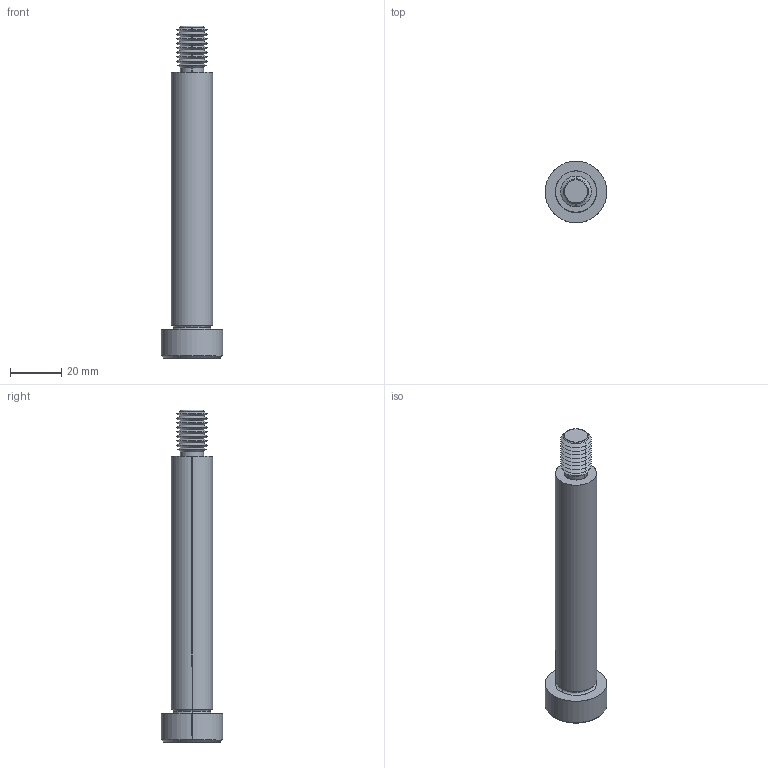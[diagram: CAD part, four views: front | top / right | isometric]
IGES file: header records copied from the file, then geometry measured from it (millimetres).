
Start section: SolidWorks IGES file using analytic representation for surfaces
Global section: file name: C:\Users\IanO\Documents\Temp Folder\GENERAL\SCREW REVISION\P0130_v2\P0130.T5_v2_20220106_IGES\P0130.160-100-T5.igs; native system: SolidWorks 2019; preprocessor: SolidWorks 2019; author: IanO; date: 220106.225821; units: millimetre
Bounding box: 24 x 24 x 129 mm (x, y, z)
Surface area: 8073.1 mm2 (no closed solid volume)
Topology: 0 solids, 0 shells, 76 faces, 588 edges, 586 vertices
Faces by surface type: revolution 56, bspline 20
